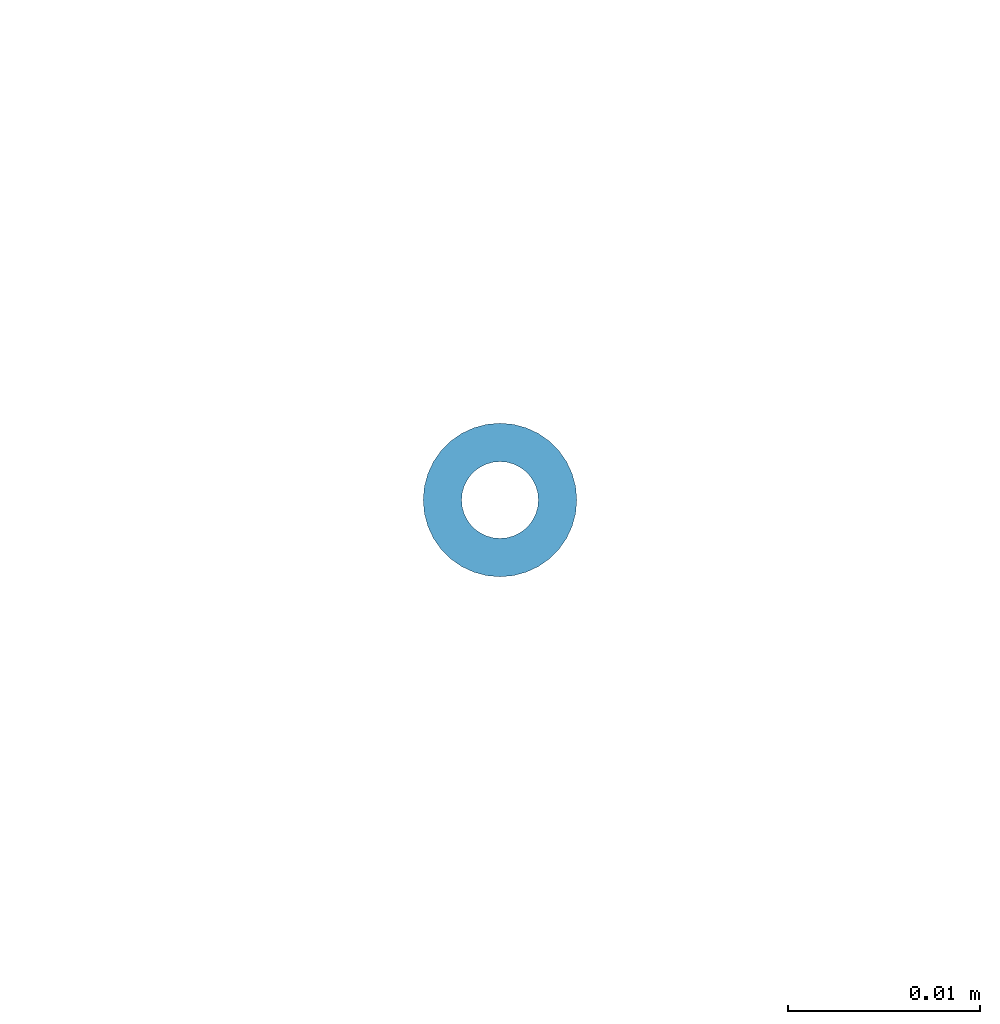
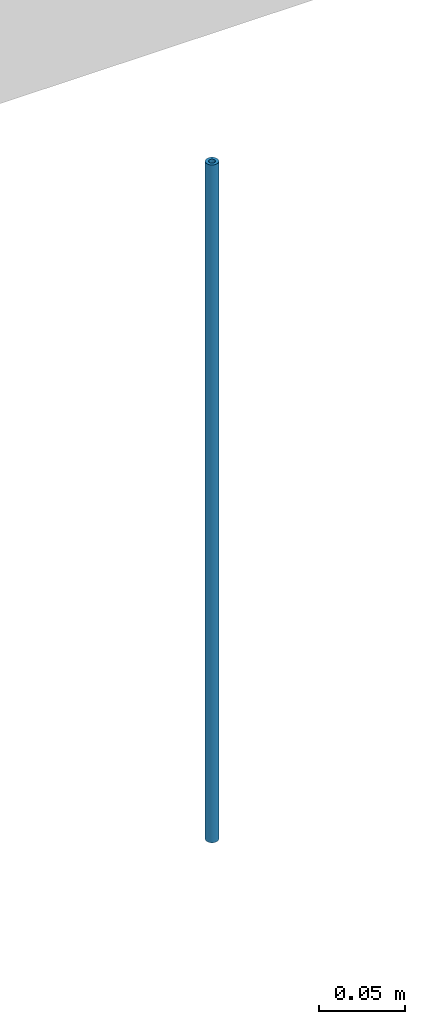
# One storey, part 11 of 23: 1 column.
"""IFC2X3 building model written with IfcOpenShell, lengths in millimetres."""

from ifc_helpers import new_model, entity, si_unit, converted_unit, derived_unit, direction, frame, origin_with_axes, place, context, subcontext, project, spatial, faceted_brep, material, type_object, element, save


model = new_model("IFC2X3")

# Units and contexts
model_context = context("Model", 3, precision=0.01, world=frame((0.0, 4.29681676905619e-09, 0.0)), true_north=direction((4.01073788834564e-13, 1.0)))
plan_context = context("Plan", 3, precision=0.01, world=frame((0.0, 4.29681676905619e-09, 0.0)), true_north=direction((4.01073788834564e-13, 1.0)))
body_context = subcontext(model_context, "Body", "Model", "MODEL_VIEW")
ifc_project = project(units=[converted_unit("PLANEANGLEUNIT", "DEGREE", entity("IfcPositiveLengthMeasure", 0.0174532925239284), si_unit("PLANEANGLEUNIT", "RADIAN"), dimensions=[0, 0, 0, 0, 0, 0, 0]), si_unit("AREAUNIT", "SQUARE_METRE"), si_unit("LENGTHUNIT", "METRE", prefix="MILLI"), si_unit("MASSUNIT", "GRAM", prefix="KILO"), si_unit("POWERUNIT", "WATT"), si_unit("PRESSUREUNIT", "PASCAL", prefix="KILO"), si_unit("FORCEUNIT", "NEWTON", prefix="KILO"), si_unit("ELECTRICVOLTAGEUNIT", "VOLT"), si_unit("ELECTRICCURRENTUNIT", "AMPERE"), si_unit("THERMODYNAMICTEMPERATUREUNIT", "DEGREE_CELSIUS"), si_unit("TIMEUNIT", "SECOND"), si_unit("VOLUMEUNIT", "CUBIC_METRE"), derived_unit("LINEARVELOCITYUNIT", [(si_unit("LENGTHUNIT", "METRE"), 1), (si_unit("TIMEUNIT", "SECOND"), -1)]), derived_unit("VOLUMETRICFLOWRATEUNIT", [(si_unit("VOLUMEUNIT", "CUBIC_METRE"), 1), (si_unit("TIMEUNIT", "SECOND"), -1)]), derived_unit("THERMALTRANSMITTANCEUNIT", [(si_unit("POWERUNIT", "WATT"), 1), (si_unit("THERMODYNAMICTEMPERATUREUNIT", "KELVIN"), -1), (si_unit("AREAUNIT", "SQUARE_METRE"), -1)]), derived_unit("SOUNDPRESSUREUNIT", [(si_unit("PRESSUREUNIT", "PASCAL"), 1)])], contexts=[model_context, plan_context])

# Site, building, storey
site_placement = place(None, origin_with_axes())
site = spatial("IfcSite", under=ifc_project, at=site_placement, Name="ENGM", CompositionType="ELEMENT")
building_placement = place(site_placement, origin_with_axes())
building = spatial("IfcBuilding", under=site, at=building_placement, Name="TI", CompositionType="ELEMENT")
storey_placement = place(building_placement, frame((0.0, 0.0, 213700.0), z_axis=(0.0, 0.0, 1.0), x_axis=(1.0, 0.0, 0.0)))
storey = spatial("IfcBuildingStorey", under=building, at=storey_placement, Name="Nivå G - 2,0m", CompositionType="ELEMENT", Elevation=213700.0)

# Column
ifc_material = material(Name="_NSW Stål")
column_type = type_object("IfcColumnType", Name="A241 - GRID-oppheng:A241 - GRID-oppheng - ø10 mm", PredefinedType="COLUMN", material=ifc_material)
column_placement = place(storey_placement, frame((587800.000000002, 577100.0, -213700.0), z_axis=(0.0, 0.0, 1.0), x_axis=(1.0, 0.0, 0.0)))
element("IfcColumn", 1, at=column_placement, inside=storey, type_object=column_type, Name="A241 - GRID-oppheng:A241 - GRID-oppheng - ø10 mm", ObjectType="A241 - GRID-oppheng:A241 - GRID-oppheng - ø10 mm", context=body_context, shape_type="Brep", body=[
    faceted_brep([(2.00000000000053, 2.95521980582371e-15, 214400.0), (1.96961550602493, -0.347296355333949, 214400.0), (1.96961550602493, -0.347296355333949, 213920.0), (2.00000000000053, 2.95521980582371e-15, 213920.0), (1.87938524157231, -0.684040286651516, 214400.0), (1.87938524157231, -0.684040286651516, 213920.0), (1.73205080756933, -1.00000000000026, 214400.0), (1.73205080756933, -1.00000000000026, 213920.0), (1.53208888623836, -1.28557521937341, 214400.0), (1.53208888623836, -1.28557521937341, 213920.0), (1.28557521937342, -1.53208888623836, 214400.0), (1.28557521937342, -1.53208888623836, 213920.0), (1.00000000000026, -1.73205080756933, 214400.0), (1.00000000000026, -1.73205080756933, 213920.0), (0.684040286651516, -1.87938524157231, 214400.0), (0.684040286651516, -1.87938524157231, 213920.0), (0.347296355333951, -1.96961550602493, 214400.0), (0.347296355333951, -1.96961550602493, 213920.0), (-2.38954857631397e-16, -2.00000000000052, 214400.0), (-2.38954857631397e-16, -2.00000000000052, 213920.0), (-0.347296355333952, -1.96961550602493, 214400.0), (-0.347296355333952, -1.96961550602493, 213920.0), (-0.684040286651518, -1.87938524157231, 214400.0), (-0.684040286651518, -1.87938524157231, 213920.0), (-1.00000000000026, -1.73205080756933, 214400.0), (-1.00000000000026, -1.73205080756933, 213920.0), (-1.28557521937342, -1.53208888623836, 214400.0), (-1.28557521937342, -1.53208888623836, 213920.0), (-1.53208888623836, -1.28557521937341, 214400.0), (-1.53208888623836, -1.28557521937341, 213920.0), (-1.73205080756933, -1.00000000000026, 214400.0), (-1.73205080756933, -1.00000000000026, 213920.0), (-1.87938524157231, -0.684040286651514, 214400.0), (-1.87938524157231, -0.684040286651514, 213920.0), (-1.96961550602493, -0.347296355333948, 214400.0), (-1.96961550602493, -0.347296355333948, 213920.0), (-2.00000000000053, 3.20014916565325e-15, 214400.0), (-2.00000000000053, 3.20014916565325e-15, 213920.0), (-1.96961550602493, 0.347296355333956, 214400.0), (-1.96961550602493, 0.347296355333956, 213920.0), (-1.87938524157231, 0.68404028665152, 214400.0), (-1.87938524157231, 0.68404028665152, 213920.0), (-1.73205080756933, 1.00000000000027, 214400.0), (-1.73205080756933, 1.00000000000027, 213920.0), (-1.53208888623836, 1.28557521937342, 214400.0), (-1.53208888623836, 1.28557521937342, 213920.0), (-1.28557521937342, 1.53208888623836, 214400.0), (-1.28557521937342, 1.53208888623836, 213920.0), (-1.00000000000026, 1.73205080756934, 214400.0), (-1.00000000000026, 1.73205080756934, 213920.0), (-0.684040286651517, 1.87938524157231, 214400.0), (-0.684040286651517, 1.87938524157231, 213920.0), (-0.347296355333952, 1.96961550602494, 214400.0), (-0.347296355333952, 1.96961550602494, 213920.0), (2.50903862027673e-16, 2.00000000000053, 214400.0), (2.50903862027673e-16, 2.00000000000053, 213920.0), (0.347296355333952, 1.96961550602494, 214400.0), (0.347296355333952, 1.96961550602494, 213920.0), (0.684040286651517, 1.87938524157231, 214400.0), (0.684040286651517, 1.87938524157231, 213920.0), (1.00000000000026, 1.73205080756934, 214400.0), (1.00000000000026, 1.73205080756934, 213920.0), (1.28557521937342, 1.53208888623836, 214400.0), (1.28557521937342, 1.53208888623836, 213920.0), (1.53208888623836, 1.28557521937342, 214400.0), (1.53208888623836, 1.28557521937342, 213920.0), (1.73205080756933, 1.00000000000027, 214400.0), (1.73205080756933, 1.00000000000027, 213920.0), (1.87938524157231, 0.68404028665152, 214400.0), (1.87938524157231, 0.68404028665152, 213920.0), (1.96961550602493, 0.347296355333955, 214400.0), (1.96961550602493, 0.347296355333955, 213920.0), (3.93923101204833, -0.694592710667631, 214400.0), (3.99999999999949, 2.95521980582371e-15, 214400.0), (3.99999999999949, 2.95521980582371e-15, 213920.0), (3.93923101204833, -0.694592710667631, 213920.0), (3.93923101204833, 0.694592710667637, 214400.0), (3.93923101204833, 0.694592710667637, 213920.0), (3.75877048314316, 1.3680805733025, 214400.0), (3.75877048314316, 1.3680805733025, 213920.0), (3.46410161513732, 1.99999999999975, 214400.0), (3.46410161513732, 1.99999999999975, 213920.0), (3.06417777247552, 2.57115043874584, 214400.0), (3.06417777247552, 2.57115043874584, 213920.0), (2.57115043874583, 3.06417777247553, 214400.0), (2.57115043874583, 3.06417777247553, 213920.0), (1.99999999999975, 3.46410161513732, 214400.0), (1.99999999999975, 3.46410161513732, 213920.0), (1.3680805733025, 3.75877048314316, 214400.0), (1.3680805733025, 3.75877048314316, 213920.0), (0.694592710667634, 3.93923101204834, 214400.0), (0.694592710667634, 3.93923101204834, 213920.0), (3.73368541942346e-16, 3.9999999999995, 214400.0), (3.73368541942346e-16, 3.9999999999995, 213920.0), (-0.694592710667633, 3.93923101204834, 214400.0), (-0.694592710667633, 3.93923101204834, 213920.0), (-1.3680805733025, 3.75877048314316, 214400.0), (-1.3680805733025, 3.75877048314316, 213920.0), (-1.99999999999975, 3.46410161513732, 214400.0), (-1.99999999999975, 3.46410161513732, 213920.0), (-2.57115043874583, 3.06417777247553, 214400.0), (-2.57115043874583, 3.06417777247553, 213920.0), (-3.06417777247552, 2.57115043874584, 214400.0), (-3.06417777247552, 2.57115043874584, 213920.0), (-3.46410161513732, 1.99999999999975, 214400.0), (-3.46410161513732, 1.99999999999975, 213920.0), (-3.75877048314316, 1.36808057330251, 214400.0), (-3.75877048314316, 1.36808057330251, 213920.0), (-3.93923101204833, 0.694592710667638, 214400.0), (-3.93923101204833, 0.694592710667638, 213920.0), (-3.99999999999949, 3.44507852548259e-15, 214400.0), (-3.99999999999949, 3.44507852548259e-15, 213920.0), (-3.93923101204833, -0.694592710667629, 214400.0), (-3.93923101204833, -0.694592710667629, 213920.0), (-3.75877048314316, -1.3680805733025, 214400.0), (-3.75877048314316, -1.3680805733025, 213920.0), (-3.46410161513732, -1.99999999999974, 214400.0), (-3.46410161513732, -1.99999999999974, 213920.0), (-3.06417777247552, -2.57115043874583, 214400.0), (-3.06417777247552, -2.57115043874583, 213920.0), (-2.57115043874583, -3.06417777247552, 214400.0), (-2.57115043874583, -3.06417777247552, 213920.0), (-1.99999999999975, -3.46410161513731, 214400.0), (-1.99999999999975, -3.46410161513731, 213920.0), (-1.3680805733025, -3.75877048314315, 214400.0), (-1.3680805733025, -3.75877048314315, 213920.0), (-0.694592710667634, -3.93923101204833, 214400.0), (-0.694592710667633, -3.93923101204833, 213920.0), (-6.06348897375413e-16, -3.99999999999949, 214400.0), (-6.06348897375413e-16, -3.99999999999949, 213920.0), (0.694592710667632, -3.93923101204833, 214400.0), (0.694592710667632, -3.93923101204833, 213920.0), (1.3680805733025, -3.75877048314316, 214400.0), (1.3680805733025, -3.75877048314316, 213920.0), (1.99999999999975, -3.46410161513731, 214400.0), (1.99999999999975, -3.46410161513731, 213920.0), (2.57115043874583, -3.06417777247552, 214400.0), (2.57115043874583, -3.06417777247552, 213920.0), (3.06417777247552, -2.57115043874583, 214400.0), (3.06417777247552, -2.57115043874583, 213920.0), (3.46410161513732, -1.99999999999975, 214400.0), (3.46410161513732, -1.99999999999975, 213920.0), (3.75877048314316, -1.3680805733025, 214400.0), (3.75877048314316, -1.3680805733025, 213920.0)], [[[0, 1, 2, 3]], [[1, 4, 5, 2]], [[4, 6, 7, 5]], [[6, 8, 9, 7]], [[8, 10, 11, 9]], [[10, 12, 13, 11]], [[12, 14, 15, 13]], [[14, 16, 17, 15]], [[16, 18, 19, 17]], [[18, 20, 21, 19]], [[20, 22, 23, 21]], [[22, 24, 25, 23]], [[24, 26, 27, 25]], [[26, 28, 29, 27]], [[28, 30, 31, 29]], [[30, 32, 33, 31]], [[32, 34, 35, 33]], [[34, 36, 37, 35]], [[36, 38, 39, 37]], [[38, 40, 41, 39]], [[40, 42, 43, 41]], [[42, 44, 45, 43]], [[44, 46, 47, 45]], [[46, 48, 49, 47]], [[48, 50, 51, 49]], [[50, 52, 53, 51]], [[52, 54, 55, 53]], [[54, 56, 57, 55]], [[56, 58, 59, 57]], [[58, 60, 61, 59]], [[60, 62, 63, 61]], [[62, 64, 65, 63]], [[64, 66, 67, 65]], [[66, 68, 69, 67]], [[68, 70, 71, 69]], [[70, 0, 3, 71]], [[72, 73, 74, 75]], [[73, 76, 77, 74]], [[76, 78, 79, 77]], [[78, 80, 81, 79]], [[80, 82, 83, 81]], [[82, 84, 85, 83]], [[84, 86, 87, 85]], [[86, 88, 89, 87]], [[88, 90, 91, 89]], [[90, 92, 93, 91]], [[92, 94, 95, 93]], [[94, 96, 97, 95]], [[96, 98, 99, 97]], [[98, 100, 101, 99]], [[100, 102, 103, 101]], [[102, 104, 105, 103]], [[104, 106, 107, 105]], [[106, 108, 109, 107]], [[108, 110, 111, 109]], [[110, 112, 113, 111]], [[112, 114, 115, 113]], [[114, 116, 117, 115]], [[116, 118, 119, 117]], [[118, 120, 121, 119]], [[120, 122, 123, 121]], [[122, 124, 125, 123]], [[124, 126, 127, 125]], [[126, 128, 129, 127]], [[128, 130, 131, 129]], [[130, 132, 133, 131]], [[132, 134, 135, 133]], [[134, 136, 137, 135]], [[136, 138, 139, 137]], [[138, 140, 141, 139]], [[140, 142, 143, 141]], [[142, 72, 75, 143]], [[75, 74, 77, 79, 81, 83, 85, 87, 89, 91, 93, 95, 97, 99, 101, 103, 105, 107, 109, 111, 113, 115, 117, 119, 121, 123, 125, 127, 129, 131, 133, 135, 137, 139, 141, 143], [3, 2, 5, 7, 9, 11, 13, 15, 17, 19, 21, 23, 25, 27, 29, 31, 33, 35, 37, 39, 41, 43, 45, 47, 49, 51, 53, 55, 57, 59, 61, 63, 65, 67, 69, 71]], [[142, 140, 138, 136, 134, 132, 130, 128, 126, 124, 122, 120, 118, 116, 114, 112, 110, 108, 106, 104, 102, 100, 98, 96, 94, 92, 90, 88, 86, 84, 82, 80, 78, 76, 73, 72], [70, 68, 66, 64, 62, 60, 58, 56, 54, 52, 50, 48, 46, 44, 42, 40, 38, 36, 34, 32, 30, 28, 26, 24, 22, 20, 18, 16, 14, 12, 10, 8, 6, 4, 1, 0]]], orient=[[False], [False], [False], [False], [False], [False], [False], [False], [False], [False], [False], [False], [False], [False], [False], [False], [False], [False], [False], [False], [False], [False], [False], [False], [False], [False], [False], [False], [False], [False], [False], [False], [False], [False], [False], [False], [False], [False], [False], [False], [False], [False], [False], [False], [False], [False], [False], [False], [False], [False], [False], [False], [False], [False], [False], [False], [False], [False], [False], [False], [False], [False], [False], [False], [False], [False], [False], [False], [False], [False], [False], [False], [False, False], [False, False]]),
])

save(model, "model.ifc")
